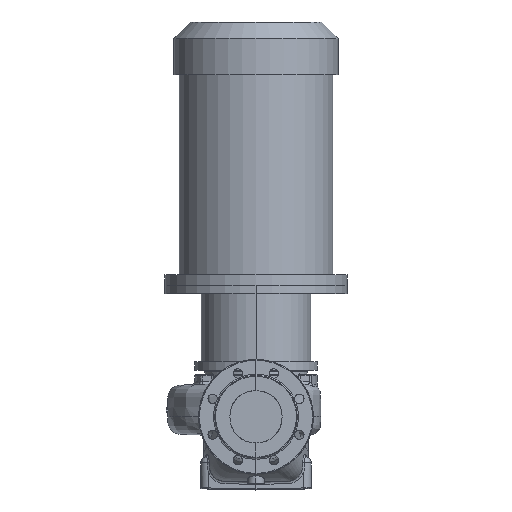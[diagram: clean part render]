
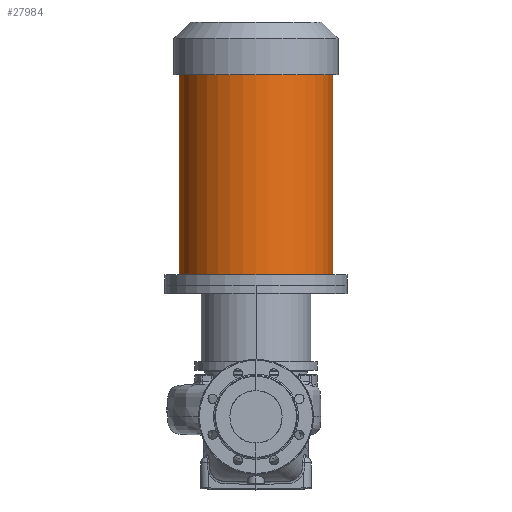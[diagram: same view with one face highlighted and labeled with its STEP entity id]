
A CAD part, top view. The second image highlights one B-rep face of the part: STEP entity #27984.
In plain terms, the highlighted cylindrical face has radius 147.5 mm (diameter 295 mm), a partial arc.
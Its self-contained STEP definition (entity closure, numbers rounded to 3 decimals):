
#2150 = EDGE_CURVE ( 'NONE', #31925, #54010, #7186, .T. ) ;
#2644 = VERTEX_POINT ( 'NONE', #6983 ) ;
#4430 = AXIS2_PLACEMENT_3D ( 'NONE', #33089, #28437, #63855 ) ;
#5302 = FACE_OUTER_BOUND ( 'NONE', #50608, .T. ) ;
#5959 = ORIENTED_EDGE ( 'NONE', *, *, #22934, .F. ) ;
#6746 = LINE ( 'NONE', #55863, #7569 ) ;
#6983 = CARTESIAN_POINT ( 'NONE',  ( -147.5, 272.8, 0. ) ) ;
#7186 = CIRCLE ( 'NONE', #4430, 147.5 ) ;
#7569 = VECTOR ( 'NONE', #14996, 1000. ) ;
#8837 = DIRECTION ( 'NONE',  ( -1., 0., 0. ) ) ;
#10156 = LINE ( 'NONE', #61706, #60770 ) ;
#11329 = DIRECTION ( 'NONE',  ( 0., -1., 0. ) ) ;
#12418 = ORIENTED_EDGE ( 'NONE', *, *, #56373, .T. ) ;
#14996 = DIRECTION ( 'NONE',  ( 0., -1., 0. ) ) ;
#17404 = EDGE_CURVE ( 'NONE', #58602, #2644, #62746, .T. ) ;
#19411 = CARTESIAN_POINT ( 'NONE',  ( 0., 252.8, 0. ) ) ;
#22934 = EDGE_CURVE ( 'NONE', #31925, #58602, #6746, .T. ) ;
#27984 = ADVANCED_FACE ( 'NONE', ( #5302 ), #37615, .T. ) ;
#28437 = DIRECTION ( 'NONE',  ( 0., -1., 0. ) ) ;
#29296 = ORIENTED_EDGE ( 'NONE', *, *, #2150, .T. ) ;
#29747 = AXIS2_PLACEMENT_3D ( 'NONE', #19411, #33996, #8837 ) ;
#29758 = CARTESIAN_POINT ( 'NONE',  ( 0., 272.8, 0. ) ) ;
#31925 = VERTEX_POINT ( 'NONE', #54161 ) ;
#33089 = CARTESIAN_POINT ( 'NONE',  ( 0., 656.8, 0. ) ) ;
#33996 = DIRECTION ( 'NONE',  ( 0., -1., 0. ) ) ;
#34846 = DIRECTION ( 'NONE',  ( 0., -1., 0. ) ) ;
#37615 = CYLINDRICAL_SURFACE ( 'NONE', #29747, 147.5 ) ;
#41164 = DIRECTION ( 'NONE',  ( -1., 0., 0. ) ) ;
#50146 = ORIENTED_EDGE ( 'NONE', *, *, #17404, .F. ) ;
#50608 = EDGE_LOOP ( 'NONE', ( #5959, #29296, #12418, #50146 ) ) ;
#54010 = VERTEX_POINT ( 'NONE', #56747 ) ;
#54161 = CARTESIAN_POINT ( 'NONE',  ( 147.5, 656.8, 0. ) ) ;
#55358 = CARTESIAN_POINT ( 'NONE',  ( 147.5, 272.8, 0. ) ) ;
#55863 = CARTESIAN_POINT ( 'NONE',  ( 147.5, 252.8, 0. ) ) ;
#56373 = EDGE_CURVE ( 'NONE', #54010, #2644, #10156, .T. ) ;
#56747 = CARTESIAN_POINT ( 'NONE',  ( -147.5, 656.8, 0. ) ) ;
#58602 = VERTEX_POINT ( 'NONE', #55358 ) ;
#59798 = AXIS2_PLACEMENT_3D ( 'NONE', #29758, #34846, #41164 ) ;
#60770 = VECTOR ( 'NONE', #11329, 1000. ) ;
#61706 = CARTESIAN_POINT ( 'NONE',  ( -147.5, 252.8, 0. ) ) ;
#62746 = CIRCLE ( 'NONE', #59798, 147.5 ) ;
#63855 = DIRECTION ( 'NONE',  ( -1., 0., 0. ) ) ;
